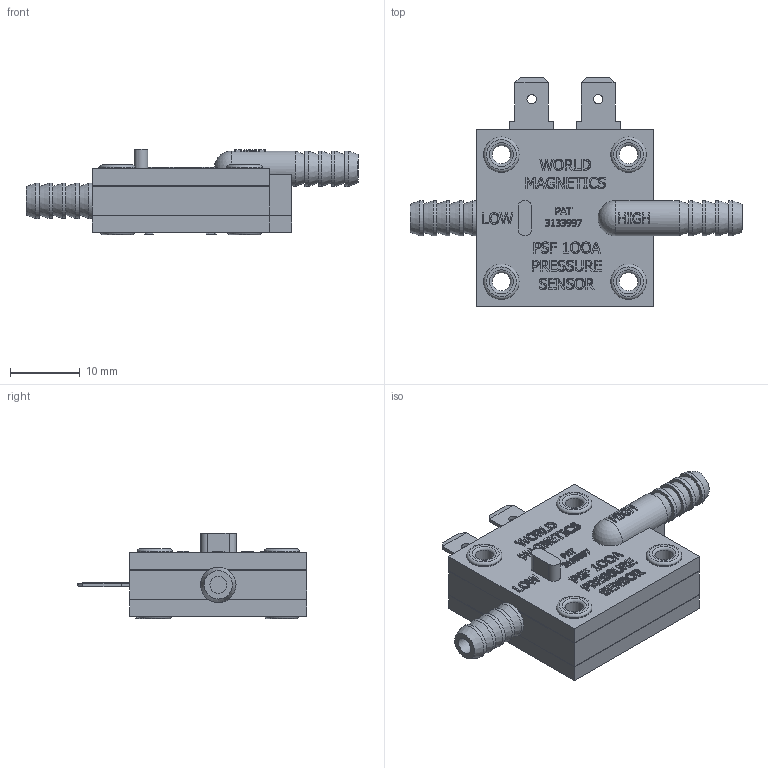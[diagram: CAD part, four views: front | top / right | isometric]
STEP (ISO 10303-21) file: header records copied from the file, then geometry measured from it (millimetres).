
FILE_DESCRIPTION((''),'2;1');
FILE_NAME('G:\DRAWINGS\SWITCH\INVENTOR DRAWINGS\WORLD MAGNETICS SWITCH\WM SALES STP FILES\PSF-100A.stp','2011-06-17T09:35:21',('dale'),(''),'Autodesk Inventor 2009','Autodesk Inventor 2009','');
FILE_SCHEMA(('AUTOMOTIVE_DESIGN { 1 0 10303 214 1 1 1 1 }'));
Length unit declared in the file: inch
Products named in the file (6): PSF-100A-STP; 60101-STP; 60065-STP; 60103-STP; 60226-STP; 60455
Assembly tree (9 placements, depth 2):
  PSF-100A-STP
    60101-STP
    60065-STP
    60103-STP
    60226-STP  x2
    60455  x4
Bounding box: 47.62 x 32.94 x 12.24 mm (x, y, z)
Volume: 6120.5 mm3; surface area: 6902.3 mm2
Topology: 9 solids, 9 shells, 1081 faces, 2844 edges, 1883 vertices
Faces by surface type: plane 596, bspline 417, cylinder 41, torus 16, cone 10, sphere 1
Full cylindrical faces by diameter (mm): 1.346 x2, 2.413 x2, 2.616 x4, 3.124 x4, 4.572 x4, 4.826 x4, 5.08 x14, 19.05 x1
Entity records: 41668 total; most frequent: CARTESIAN_POINT 18289, ORIENTED_EDGE 5296, DIRECTION 3181, EDGE_CURVE 2648, VERTEX_POINT 1789, VECTOR 1711, LINE 1711, EDGE_LOOP 1177
